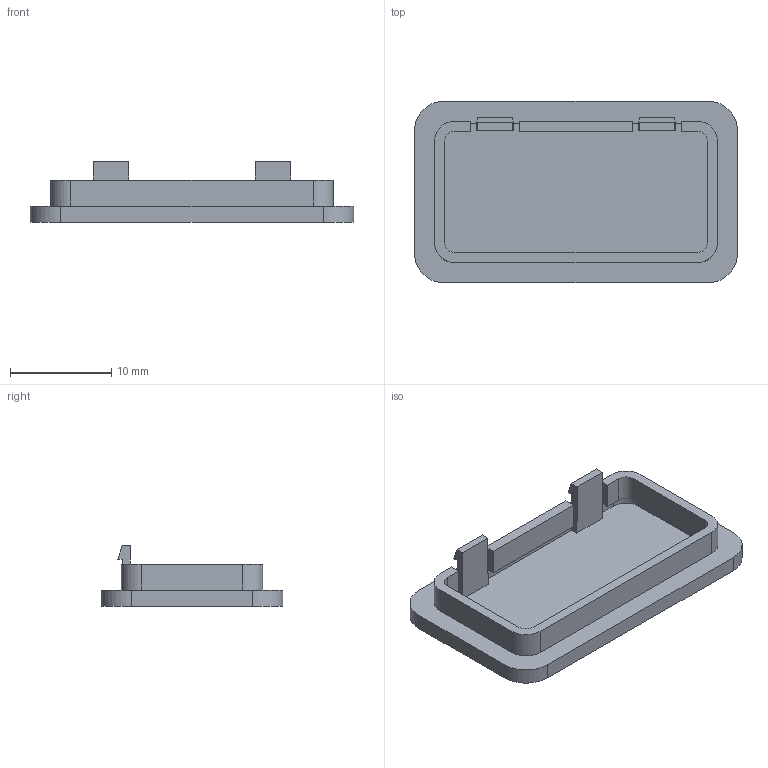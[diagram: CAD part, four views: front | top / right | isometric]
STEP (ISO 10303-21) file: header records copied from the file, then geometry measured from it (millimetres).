
FILE_DESCRIPTION(('Open CASCADE Model'),'2;1');
FILE_NAME('Open CASCADE Shape Model','2026-11-08T17:26:56',('Author'),( 'Open CASCADE'),'Open CASCADE STEP processor 7.8','Open CASCADE 7.8' ,'Unknown');
FILE_SCHEMA(('AUTOMOTIVE_DESIGN { 1 0 10303 214 1 1 1 1 }'));
Length unit declared in the file: millimetre
Products named in the file (1): Open CASCADE STEP translator 7.8 5
Bounding box: 32 x 18 x 6 mm (x, y, z)
Volume: 670.7 mm3; surface area: 1931 mm2
Topology: 1 solids, 1 shells, 71 faces, 204 edges, 136 vertices
Faces by surface type: plane 55, cylinder 16
Entity records: 4851 total; most frequent: CARTESIAN_POINT 968, DIRECTION 655, LINE 418, VECTOR 418, ORIENTED_EDGE 408, PCURVE 408, DEFINITIONAL_REPRESENTATION 408, EDGE_CURVE 204
